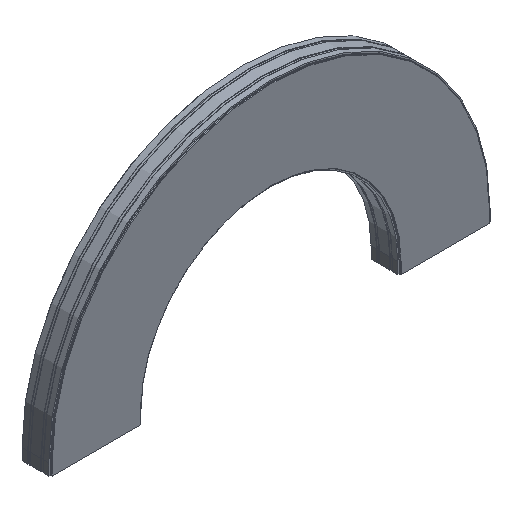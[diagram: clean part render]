
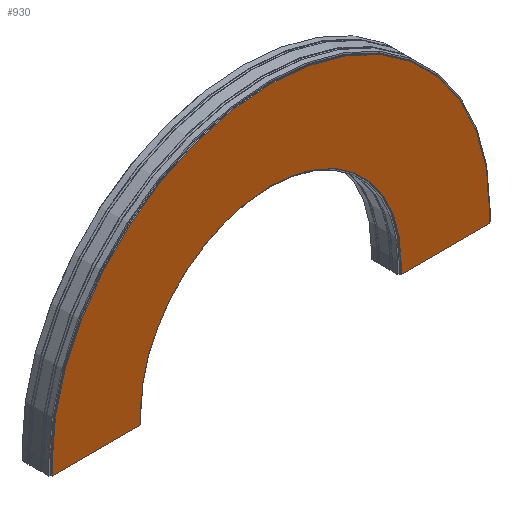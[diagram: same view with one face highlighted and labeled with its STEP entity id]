
A CAD part, isometric view. The second image highlights one B-rep face of the part: STEP entity #930.
In plain terms, the highlighted planar face has unit normal (0, -1, 0).
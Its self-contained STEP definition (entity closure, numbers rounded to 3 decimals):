
#6 = DIRECTION ( 'NONE',  ( -1., 0., 0. ) ) ;
#30 = DIRECTION ( 'NONE',  ( 0., 0., 1. ) ) ;
#63 = CARTESIAN_POINT ( 'NONE',  ( -596.8, -68.25, 0. ) ) ;
#68 = VERTEX_POINT ( 'NONE', #1356 ) ;
#125 = LINE ( 'NONE', #2478, #2087 ) ;
#159 = ORIENTED_EDGE ( 'NONE', *, *, #1583, .T. ) ;
#165 = CARTESIAN_POINT ( 'NONE',  ( 596.8, -68.25, -52.5 ) ) ;
#220 = EDGE_CURVE ( 'NONE', #1460, #262, #1071, .T. ) ;
#240 = AXIS2_PLACEMENT_3D ( 'NONE', #2022, #885, #522 ) ;
#262 = VERTEX_POINT ( 'NONE', #888 ) ;
#282 = DIRECTION ( 'NONE',  ( -1., 0., 0. ) ) ;
#283 = VERTEX_POINT ( 'NONE', #2271 ) ;
#287 = CARTESIAN_POINT ( 'NONE',  ( -596.8, -68.25, -52.5 ) ) ;
#425 = VECTOR ( 'NONE', #1691, 1000. ) ;
#509 = CIRCLE ( 'NONE', #1911, 1003.2 ) ;
#522 = DIRECTION ( 'NONE',  ( -1., 0., 0. ) ) ;
#538 = VECTOR ( 'NONE', #1844, 1000. ) ;
#555 = LINE ( 'NONE', #559, #903 ) ;
#559 = CARTESIAN_POINT ( 'NONE',  ( -596.8, -68.25, -52.5 ) ) ;
#592 = EDGE_CURVE ( 'NONE', #2406, #1460, #125, .T. ) ;
#677 = ORIENTED_EDGE ( 'NONE', *, *, #592, .F. ) ;
#764 = AXIS2_PLACEMENT_3D ( 'NONE', #63, #1204, #282 ) ;
#765 = CARTESIAN_POINT ( 'NONE',  ( 1003.2, -68.25, -52.5 ) ) ;
#772 = ORIENTED_EDGE ( 'NONE', *, *, #1107, .T. ) ;
#879 = ORIENTED_EDGE ( 'NONE', *, *, #1653, .T. ) ;
#885 = DIRECTION ( 'NONE',  ( 0., 1., 0. ) ) ;
#888 = CARTESIAN_POINT ( 'NONE',  ( 596.8, -68.25, 0. ) ) ;
#903 = VECTOR ( 'NONE', #30, 1000. ) ;
#930 = ADVANCED_FACE ( 'NONE', ( #1355 ), #1412, .F. ) ;
#1017 = VERTEX_POINT ( 'NONE', #1985 ) ;
#1071 = LINE ( 'NONE', #165, #1245 ) ;
#1080 = ORIENTED_EDGE ( 'NONE', *, *, #1176, .F. ) ;
#1107 = EDGE_CURVE ( 'NONE', #2406, #2118, #2419, .T. ) ;
#1112 = LINE ( 'NONE', #1306, #425 ) ;
#1116 = CARTESIAN_POINT ( 'NONE',  ( -1003.2, -68.25, -52.5 ) ) ;
#1176 = EDGE_CURVE ( 'NONE', #1017, #2118, #509, .T. ) ;
#1178 = EDGE_CURVE ( 'NONE', #283, #1017, #1661, .T. ) ;
#1204 = DIRECTION ( 'NONE',  ( 0., 1., 0. ) ) ;
#1245 = VECTOR ( 'NONE', #1873, 1000. ) ;
#1306 = CARTESIAN_POINT ( 'NONE',  ( 0., -68.25, -52.5 ) ) ;
#1318 = EDGE_LOOP ( 'NONE', ( #159, #1423, #677, #772, #1080, #2116, #1547, #879 ) ) ;
#1355 = FACE_OUTER_BOUND ( 'NONE', #1318, .T. ) ;
#1356 = CARTESIAN_POINT ( 'NONE',  ( -596.8, -68.25, 0. ) ) ;
#1412 = PLANE ( 'NONE',  #764 ) ;
#1423 = ORIENTED_EDGE ( 'NONE', *, *, #220, .F. ) ;
#1450 = CARTESIAN_POINT ( 'NONE',  ( 1003.2, -68.25, -52.5 ) ) ;
#1460 = VERTEX_POINT ( 'NONE', #1990 ) ;
#1547 = ORIENTED_EDGE ( 'NONE', *, *, #1688, .F. ) ;
#1583 = EDGE_CURVE ( 'NONE', #68, #262, #1603, .T. ) ;
#1603 = CIRCLE ( 'NONE', #240, 596.8 ) ;
#1653 = EDGE_CURVE ( 'NONE', #1981, #68, #555, .T. ) ;
#1661 = LINE ( 'NONE', #1116, #2207 ) ;
#1687 = CARTESIAN_POINT ( 'NONE',  ( 0., -68.25, 0. ) ) ;
#1688 = EDGE_CURVE ( 'NONE', #1981, #283, #1112, .T. ) ;
#1691 = DIRECTION ( 'NONE',  ( -1., 0., 0. ) ) ;
#1844 = DIRECTION ( 'NONE',  ( 0., 0., 1. ) ) ;
#1870 = DIRECTION ( 'NONE',  ( -1., 0., 0. ) ) ;
#1873 = DIRECTION ( 'NONE',  ( 0., 0., 1. ) ) ;
#1911 = AXIS2_PLACEMENT_3D ( 'NONE', #1687, #2434, #1870 ) ;
#1981 = VERTEX_POINT ( 'NONE', #287 ) ;
#1985 = CARTESIAN_POINT ( 'NONE',  ( -1003.2, -68.25, 0. ) ) ;
#1990 = CARTESIAN_POINT ( 'NONE',  ( 596.8, -68.25, -52.5 ) ) ;
#1993 = CARTESIAN_POINT ( 'NONE',  ( 1003.2, -68.25, 0. ) ) ;
#2022 = CARTESIAN_POINT ( 'NONE',  ( 0., -68.25, 0. ) ) ;
#2087 = VECTOR ( 'NONE', #6, 1000. ) ;
#2116 = ORIENTED_EDGE ( 'NONE', *, *, #1178, .F. ) ;
#2118 = VERTEX_POINT ( 'NONE', #1993 ) ;
#2207 = VECTOR ( 'NONE', #2247, 1000. ) ;
#2247 = DIRECTION ( 'NONE',  ( 0., 0., 1. ) ) ;
#2271 = CARTESIAN_POINT ( 'NONE',  ( -1003.2, -68.25, -52.5 ) ) ;
#2406 = VERTEX_POINT ( 'NONE', #765 ) ;
#2419 = LINE ( 'NONE', #1450, #538 ) ;
#2434 = DIRECTION ( 'NONE',  ( 0., 1., 0. ) ) ;
#2478 = CARTESIAN_POINT ( 'NONE',  ( 0., -68.25, -52.5 ) ) ;
